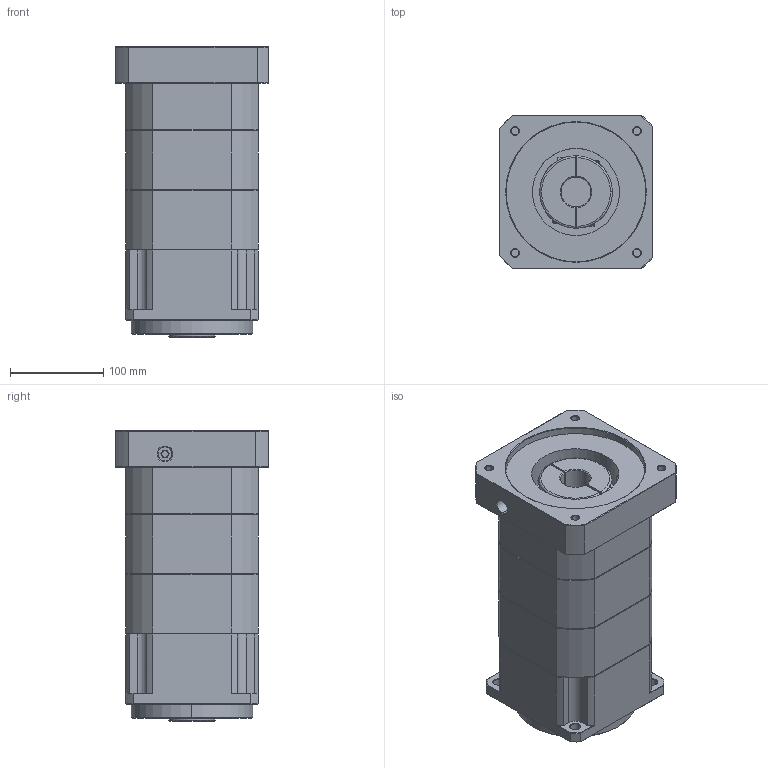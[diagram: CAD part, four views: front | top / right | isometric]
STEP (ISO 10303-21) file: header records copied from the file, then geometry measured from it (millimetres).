
FILE_DESCRIPTION (( 'STEP AP214' ), '1' );
FILE_NAME ('ZPB142-K35-L3-P1-32-150-185-M10.step', '2024-07-05T00:14:29', ( 'Windows 蚚誧' ), ( 'Organization' ), 'SwSTEP 2.0', 'SolidWorks 2016', '' );
FILE_SCHEMA (( 'AUTOMOTIVE_DESIGN' ));
Length unit declared in the file: millimetre
Products named in the file (1): ZPB142-K35-L3-P1-32-150-185-M10
Bounding box: 165 x 165 x 311.5 mm (x, y, z)
Surface area: 272458.8 mm2 (no closed solid volume)
Topology: 0 solids, 36 shells, 1798 faces, 4768 edges, 3046 vertices
Faces by surface type: plane 930, bspline 376, cone 274, cylinder 218
Entity records: 88152 total; most frequent: CARTESIAN_POINT 37909, ORIENTED_EDGE 9532, DIRECTION 7364, EDGE_CURVE 4768, VECTOR 3162, LINE 3162, VERTEX_POINT 3046, AXIS2_PLACEMENT_3D 2101
